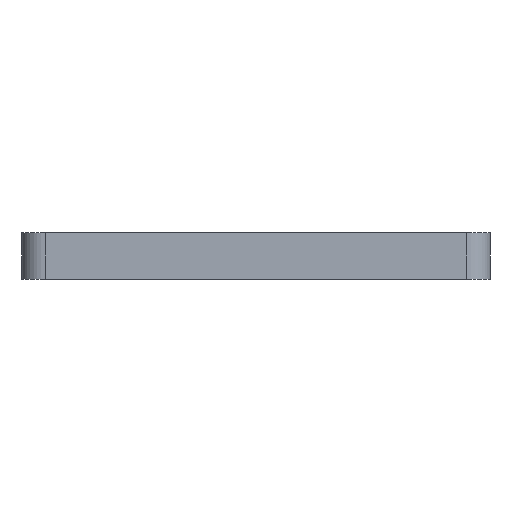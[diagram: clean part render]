
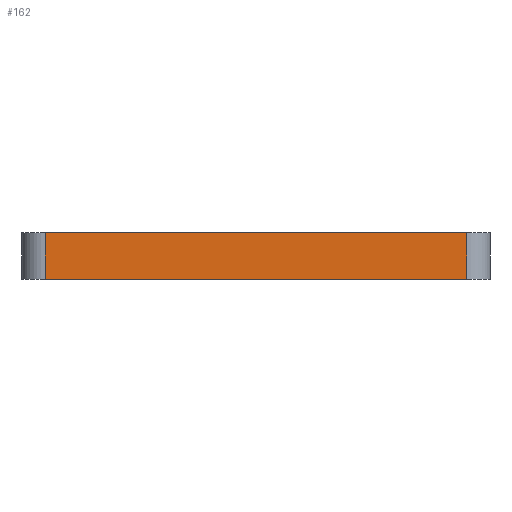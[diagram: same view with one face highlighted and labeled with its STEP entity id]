
A CAD part, front view. The second image highlights one B-rep face of the part: STEP entity #162.
In plain terms, the highlighted planar face has unit normal (0, -1, 0).
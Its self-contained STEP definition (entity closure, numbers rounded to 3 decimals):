
#120=FACE_OUTER_BOUND('',#440,.T.);
#162=ADVANCED_FACE('',(#120),#208,.T.);
#208=PLANE('',#1045);
#238=LINE('',#1403,#318);
#259=LINE('',#1492,#339);
#268=LINE('',#1528,#348);
#269=LINE('',#1529,#349);
#318=VECTOR('',#1127,1.);
#339=VECTOR('',#1196,1.);
#348=VECTOR('',#1225,1.);
#349=VECTOR('',#1226,1.);
#440=EDGE_LOOP('',(#572,#573,#574,#575));
#572=ORIENTED_EDGE('',*,*,#848,.T.);
#573=ORIENTED_EDGE('',*,*,#910,.T.);
#574=ORIENTED_EDGE('',*,*,#892,.T.);
#575=ORIENTED_EDGE('',*,*,#911,.T.);
#762=VERTEX_POINT('',#1402);
#763=VERTEX_POINT('',#1404);
#806=VERTEX_POINT('',#1491);
#807=VERTEX_POINT('',#1493);
#848=EDGE_CURVE('',#763,#762,#238,.T.);
#892=EDGE_CURVE('',#807,#806,#259,.T.);
#910=EDGE_CURVE('',#762,#807,#268,.T.);
#911=EDGE_CURVE('',#806,#763,#269,.T.);
#1045=AXIS2_PLACEMENT_3D('',#1530,#1227,#1228);
#1127=DIRECTION('',(-1.,0.,0.));
#1196=DIRECTION('',(1.,0.,0.));
#1225=DIRECTION('',(0.,0.,-1.));
#1226=DIRECTION('',(0.,0.,1.));
#1227=DIRECTION('',(0.,-1.,0.));
#1228=DIRECTION('',(0.,0.,-1.));
#1402=CARTESIAN_POINT('',(5.,0.,10.));
#1403=CARTESIAN_POINT('',(50.,0.,10.));
#1404=CARTESIAN_POINT('',(95.,0.,10.));
#1491=CARTESIAN_POINT('',(95.,0.,0.));
#1492=CARTESIAN_POINT('',(50.,0.,0.));
#1493=CARTESIAN_POINT('',(5.,0.,0.));
#1528=CARTESIAN_POINT('',(5.,0.,0.));
#1529=CARTESIAN_POINT('',(95.,0.,0.));
#1530=CARTESIAN_POINT('',(50.,0.,0.));
